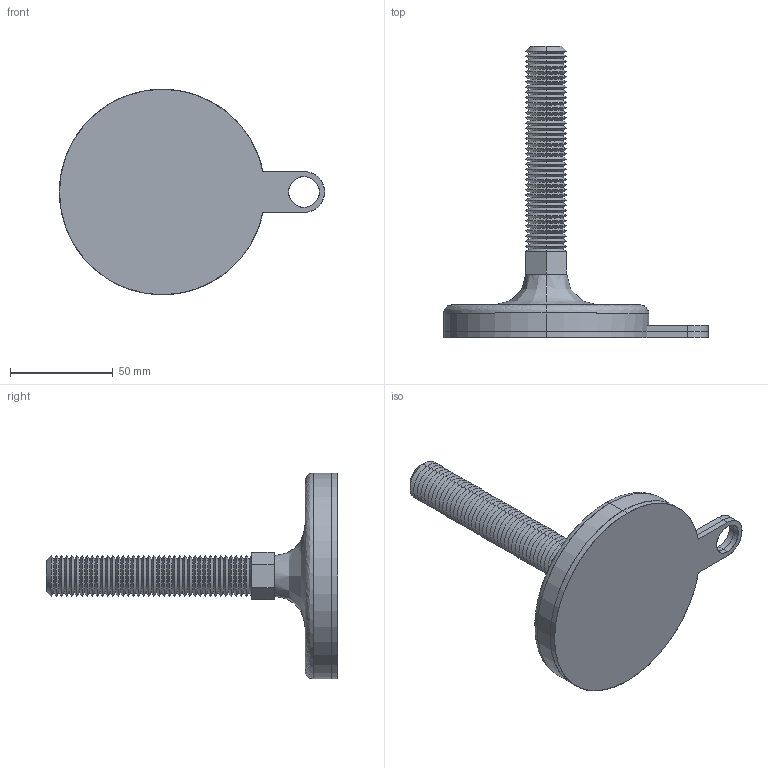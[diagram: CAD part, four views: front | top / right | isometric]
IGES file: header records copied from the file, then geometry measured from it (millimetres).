
Start section: SolidWorks IGES file using analytic representation for surfaces
Global section: file name: C:\Users\liam_\OneDrive\Documents\WORK\Work for WixRoyd\Job Files\J-00026 - Matt Davis CAD - 20191124\04. CAD Drawings\Wixroyd20191124\34704_v2\34704_v2_20191128_IGES\34704.W2005.igs; native system: SolidWorks 2017; preprocessor: SolidWorks 2017; author: liam_; date: 191128.202756; units: millimetre
Bounding box: 129 x 142 x 100 mm (x, y, z)
Surface area: 50402.3 mm2 (no closed solid volume)
Topology: 0 solids, 0 shells, 201 faces, 1436 edges, 1436 vertices
Faces by surface type: revolution 169, bspline 32
